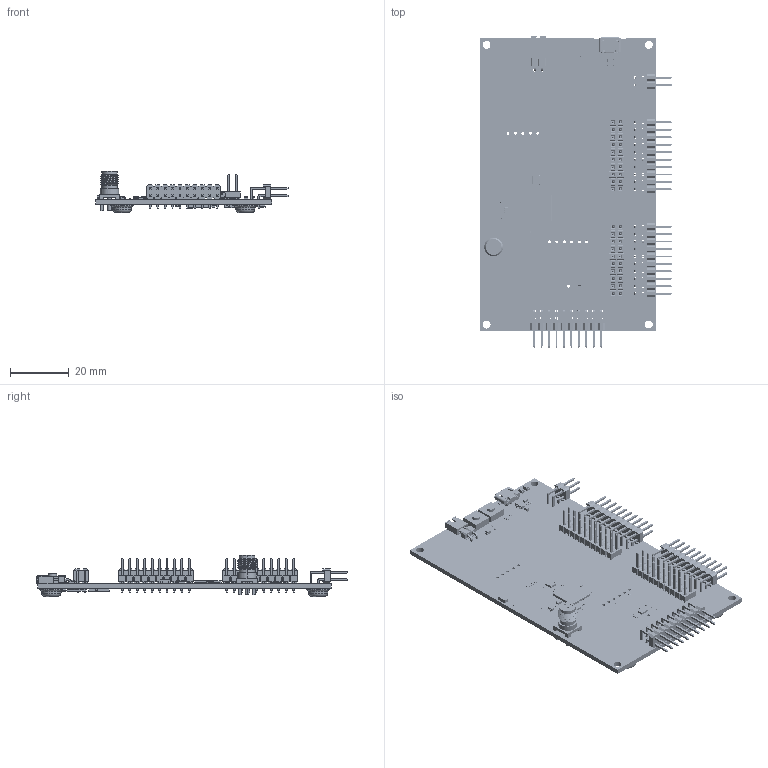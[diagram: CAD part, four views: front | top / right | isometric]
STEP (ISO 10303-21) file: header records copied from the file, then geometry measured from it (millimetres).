
FILE_DESCRIPTION(('Open CASCADE Model'),'2;1');
FILE_NAME('Open CASCADE Shape Model','2013-02-25T12:40:48',('Author'),( 'Open CASCADE'),'Open CASCADE STEP processor 6.2','Open CASCADE 6.2' ,'Unknown');
FILE_SCHEMA(('AUTOMOTIVE_DESIGN { 1 0 10303 214 1 1 1 1 }'));
Length unit declared in the file: millimetre
Products named in the file (216): PCB; Board; C604; User_Library-cap_0201; C603; C602; U500; 374498424; Cylinder; 490966656; Extruded; 490966784; R505; 0402_SMD_Resistor; R504; R503; R502; R501; R500; C500; 0402_SMD_Capacitor; A600; 490961664; 490964096; 490964224; J204; TSW-110-07-X-D; Open CASCADE STEP translator 6.2 1.14.1.1; Open CASCADE STEP translator 6.2 1.14.1.6; XC301; UserLibraryGeyerElectronics_KX7; XC300; 374498064; 490965120; 490965376; 490965504; 490965632; U600; User_Library-SC70-6; C311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
Assembly tree (448 placements, depth 4):
  PCB
    Board
    C604
      User_Library-cap_0201
    C603
      User_Library-cap_0201
    C602
      User_Library-cap_0201
    U500
      374498424
        Cylinder
      490966656  x8
        Extruded
      490966784
        Extruded
    R505
      0402_SMD_Resistor
    R504
      0402_SMD_Resistor
    R503
      0402_SMD_Resistor
    R502
      0402_SMD_Resistor
    R501
      0402_SMD_Resistor
    R500
      0402_SMD_Resistor
    C500
      0402_SMD_Capacitor
    A600
      490961664  x4
        Extruded
      490964096
        Extruded
      490964224
        Extruded
    J204
      TSW-110-07-X-D
        Open CASCADE STEP translator 6.2 1.14.1.1  x20
        Open CASCADE STEP translator 6.2 1.14.1.6
    XC301
      UserLibraryGeyerElectronics_KX7
    XC300
      374498064
        Cylinder
      490965120
        Extruded
      490965376
        Extruded
      490965504
        Extruded
      490965632
        Extruded
    U600
      User_Library-SC70-6
    C311
      0402_SMD_Capacitor
    C310
      0402_SMD_Capacitor
    C309
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Bounding box: 65.66 x 106.22 x 14.02 mm (x, y, z)
Volume: 12855.6 mm3; surface area: 21947.8 mm2
Topology: 386 solids, 386 shells, 12637 faces, 30481 edges, 18239 vertices
Faces by surface type: plane 7998, cylinder 2310, bspline 1514, sphere 779, torus 20, cone 16
Full cylindrical faces by diameter (mm): 0.16 x1, 0.2 x1, 0.3 x1, 1 x78, 1.2 x40, 1.5 x1, 1.6 x4, 2.7 x4, 2.9 x2, 8.001 x4
Entity records: 314903 total; most frequent: CARTESIAN_POINT 88175, DIRECTION 34771, LINE 23074, VECTOR 23074, ORIENTED_EDGE 20044, PCURVE 20044, DEFINITIONAL_REPRESENTATION 20044, EDGE_CURVE 10022
